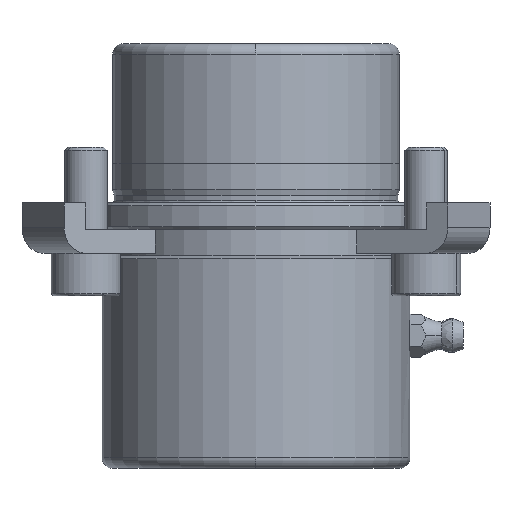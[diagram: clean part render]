
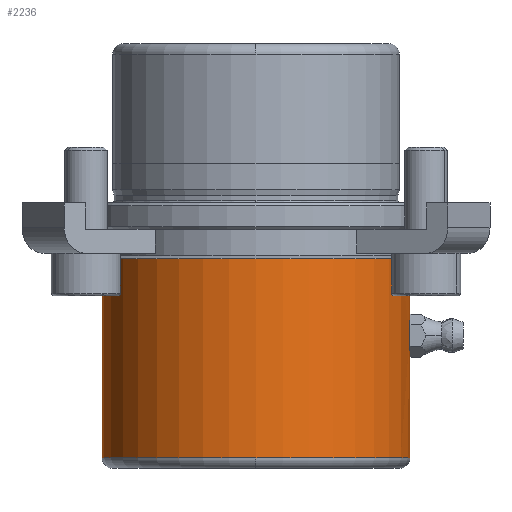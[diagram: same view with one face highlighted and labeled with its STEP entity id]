
A CAD part, front view. The second image highlights one B-rep face of the part: STEP entity #2236.
In plain terms, the highlighted cylindrical face has radius 29 mm (diameter 58 mm), a partial arc.
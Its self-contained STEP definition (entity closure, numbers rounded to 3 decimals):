
#604=CARTESIAN_POINT('',(0.,-29.,-48.));
#605=VERTEX_POINT('',#604);
#613=CARTESIAN_POINT('',(-29.0,0.,-48.0));
#614=VERTEX_POINT('',#613);
#615=CARTESIAN_POINT('',(0.0,0.,-48.0));
#616=DIRECTION('',(0.0,0.0,-1.0));
#617=DIRECTION('',(1.0,0.0,0.0));
#618=AXIS2_PLACEMENT_3D('',#615,#616,#617);
#619=CIRCLE('',#618,29.);
#620=EDGE_CURVE('',#605,#614,#619,.T.);
#637=CARTESIAN_POINT('',(29.,0.,-48.0));
#638=VERTEX_POINT('',#637);
#639=CARTESIAN_POINT('',(29.0,0.,-27.5));
#640=VERTEX_POINT('',#639);
#641=CARTESIAN_POINT('',(29.,0.,-48.0));
#642=DIRECTION('',(0.0,0.0,1.0));
#643=VECTOR('',#642,20.5);
#644=LINE('',#641,#643);
#645=EDGE_CURVE('',#638,#640,#644,.T.);
#655=CARTESIAN_POINT('',(-29.0,0.,-10.5));
#656=VERTEX_POINT('',#655);
#657=CARTESIAN_POINT('',(-29.0,0.,-48.0));
#658=DIRECTION('',(0.0,0.0,1.0));
#659=VECTOR('',#658,37.5);
#660=LINE('',#657,#659);
#661=EDGE_CURVE('',#614,#656,#660,.T.);
#663=CARTESIAN_POINT('',(29.0,0.,-10.5));
#664=VERTEX_POINT('',#663);
#672=CARTESIAN_POINT('',(29.0,0.,-22.5));
#673=VERTEX_POINT('',#672);
#674=CARTESIAN_POINT('',(29.0,0.,-22.5));
#675=DIRECTION('',(0.0,0.0,1.0));
#676=VECTOR('',#675,12.0);
#677=LINE('',#674,#676);
#678=EDGE_CURVE('',#673,#664,#677,.T.);
#1577=CARTESIAN_POINT('',(28.892,-2.5,-25.0));
#1578=VERTEX_POINT('',#1577);
#1579=CARTESIAN_POINT('',(28.892,-2.5,-25.0));
#1580=CARTESIAN_POINT('',(28.892,-2.5,-24.843));
#1581=CARTESIAN_POINT('',(28.893,-2.485,-24.681));
#1582=CARTESIAN_POINT('',(28.899,-2.422,-24.358));
#1583=CARTESIAN_POINT('',(28.903,-2.373,-24.197));
#1584=CARTESIAN_POINT('',(28.913,-2.246,-23.889));
#1585=CARTESIAN_POINT('',(28.919,-2.166,-23.741));
#1586=CARTESIAN_POINT('',(28.932,-1.983,-23.469));
#1587=CARTESIAN_POINT('',(28.939,-1.879,-23.343));
#1588=CARTESIAN_POINT('',(28.953,-1.657,-23.121));
#1589=CARTESIAN_POINT('',(28.96,-1.531,-23.017));
#1590=CARTESIAN_POINT('',(28.973,-1.259,-22.834));
#1591=CARTESIAN_POINT('',(28.979,-1.111,-22.754));
#1592=CARTESIAN_POINT('',(28.989,-0.803,-22.627));
#1593=CARTESIAN_POINT('',(28.993,-0.642,-22.578));
#1594=CARTESIAN_POINT('',(28.999,-0.319,-22.515));
#1595=CARTESIAN_POINT('',(29.0,-0.157,-22.5));
#1596=CARTESIAN_POINT('',(29.0,0.,-22.5));
#1597=B_SPLINE_CURVE_WITH_KNOTS('',3,(#1579,#1580,#1581,#1582,#1583,#1584,#1585,#1586,#1587,#1588,#1589,#1590,#1591,#1592,#1593,#1594,#1595,#1596),.UNSPECIFIED.,.F.,.U.,(4,2,2,2,2,2,2,2,4),(0.0,0.471,0.942,1.413,1.884,2.356,2.827,3.298,3.769),.UNSPECIFIED.);
#1598=EDGE_CURVE('',#1578,#673,#1597,.T.);
#1600=CARTESIAN_POINT('',(29.0,0.,-27.5));
#1601=CARTESIAN_POINT('',(29.0,-0.157,-27.5));
#1602=CARTESIAN_POINT('',(28.999,-0.319,-27.485));
#1603=CARTESIAN_POINT('',(28.993,-0.642,-27.422));
#1604=CARTESIAN_POINT('',(28.989,-0.803,-27.373));
#1605=CARTESIAN_POINT('',(28.979,-1.111,-27.246));
#1606=CARTESIAN_POINT('',(28.973,-1.259,-27.166));
#1607=CARTESIAN_POINT('',(28.96,-1.531,-26.983));
#1608=CARTESIAN_POINT('',(28.953,-1.657,-26.879));
#1609=CARTESIAN_POINT('',(28.939,-1.879,-26.657));
#1610=CARTESIAN_POINT('',(28.932,-1.983,-26.531));
#1611=CARTESIAN_POINT('',(28.919,-2.166,-26.259));
#1612=CARTESIAN_POINT('',(28.913,-2.246,-26.111));
#1613=CARTESIAN_POINT('',(28.903,-2.373,-25.803));
#1614=CARTESIAN_POINT('',(28.899,-2.422,-25.642));
#1615=CARTESIAN_POINT('',(28.893,-2.485,-25.319));
#1616=CARTESIAN_POINT('',(28.892,-2.5,-25.157));
#1617=CARTESIAN_POINT('',(28.892,-2.5,-25.0));
#1618=B_SPLINE_CURVE_WITH_KNOTS('',3,(#1600,#1601,#1602,#1603,#1604,#1605,#1606,#1607,#1608,#1609,#1610,#1611,#1612,#1613,#1614,#1615,#1616,#1617),.UNSPECIFIED.,.F.,.U.,(4,2,2,2,2,2,2,2,4),(11.307,11.778,12.249,12.72,13.191,13.662,14.133,14.604,15.075),.UNSPECIFIED.);
#1619=EDGE_CURVE('',#640,#1578,#1618,.T.);
#2205=CARTESIAN_POINT('',(0.0,0.,-10.5));
#2206=DIRECTION('',(0.0,0.0,-1.0));
#2207=DIRECTION('',(1.0,0.0,0.0));
#2208=AXIS2_PLACEMENT_3D('',#2205,#2206,#2207);
#2209=CIRCLE('',#2208,29.0);
#2210=EDGE_CURVE('',#664,#656,#2209,.T.);
#2215=CARTESIAN_POINT('',(0.0,0.,-29.25));
#2216=DIRECTION('',(0.0,0.,-1.0));
#2217=DIRECTION('',(1.0,0.0,0.0));
#2218=AXIS2_PLACEMENT_3D('',#2215,#2216,#2217);
#2219=CYLINDRICAL_SURFACE('',#2218,29.0);
#2220=ORIENTED_EDGE('',*,*,#645,.T.);
#2221=ORIENTED_EDGE('',*,*,#1619,.T.);
#2222=ORIENTED_EDGE('',*,*,#1598,.T.);
#2223=ORIENTED_EDGE('',*,*,#678,.T.);
#2224=ORIENTED_EDGE('',*,*,#2210,.T.);
#2225=ORIENTED_EDGE('',*,*,#661,.F.);
#2226=ORIENTED_EDGE('',*,*,#620,.F.);
#2227=CARTESIAN_POINT('',(0.0,0.,-48.0));
#2228=DIRECTION('',(0.0,0.0,-1.0));
#2229=DIRECTION('',(1.0,0.0,0.0));
#2230=AXIS2_PLACEMENT_3D('',#2227,#2228,#2229);
#2231=CIRCLE('',#2230,29.);
#2232=EDGE_CURVE('',#638,#605,#2231,.T.);
#2233=ORIENTED_EDGE('',*,*,#2232,.F.);
#2234=EDGE_LOOP('',(#2220,#2221,#2222,#2223,#2224,#2225,#2226,#2233));
#2235=FACE_OUTER_BOUND('',#2234,.T.);
#2236=ADVANCED_FACE('',(#2235),#2219,.T.);
